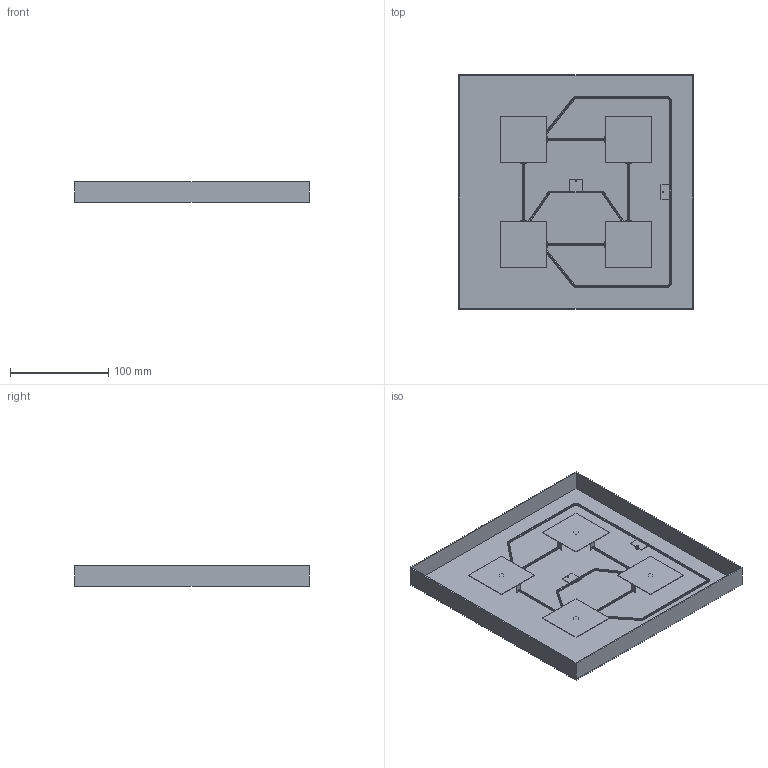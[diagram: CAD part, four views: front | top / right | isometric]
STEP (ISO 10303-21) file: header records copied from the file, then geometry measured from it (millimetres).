
FILE_DESCRIPTION(('STEP AP214'),'1');
FILE_NAME('4g.step','2016-12-05T11:04:31',(' '),('ANSOFT Corporation'),'Spatial InterOp 3D',' ',' ');
FILE_SCHEMA(('automotive_design'));
Length unit declared in the file: millimetre
Products named in the file (19): RegularPolyhedron2; Rectangle6; RegularPolyhedron2_1; RegularPolyhedron2_2; RegularPolyhedron2_1_1; Rectangle8; Polygon2; Rectangle9; Box3; Polygon2_1; 1; 2; 3; 4; Rectangle6_2; RegularPolyhedron7; RegularPolyhedron8; RegularPolyhedron9; RegularPolyhedron10
Bounding box: 238.5 x 238.5 x 21 mm (x, y, z)
Volume: 84490.2 mm3; surface area: 179311.8 mm2
Topology: 19 solids, 19 shells, 745 faces, 1872 edges, 1184 vertices
Faces by surface type: plane 625, bspline 96, cone 24
Entity records: 35852 total; most frequent: CARTESIAN_POINT 12444, ORIENTED_EDGE 3744, DIRECTION 2996, EDGE_CURVE 1872, LINE 1612, VECTOR 1612, VERTEX_POINT 1184, EDGE_LOOP 772
